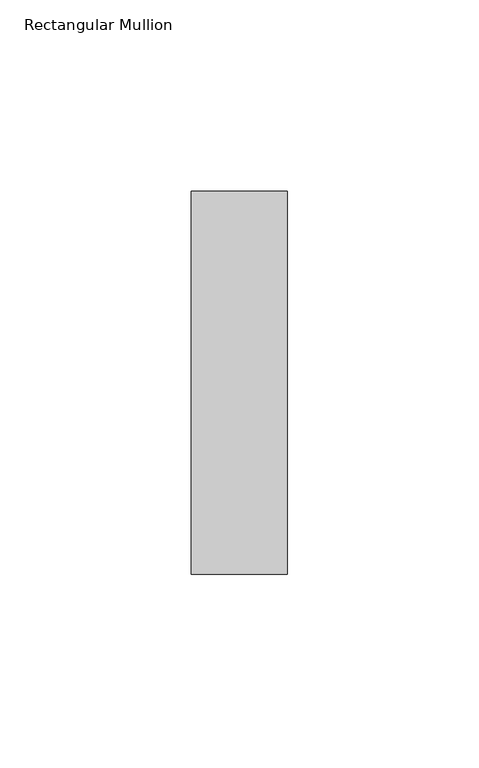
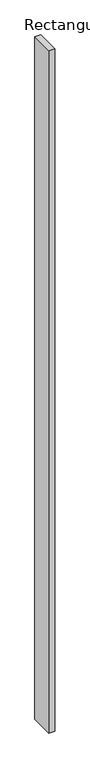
"""IFC4 building model written with IfcOpenShell, lengths in millimetres: member geometry, Rectangular Mullion : Batten_Aluminium_Modinex_AluBatten_25x100_AfricanEbony."""

from ifc_helpers import new_model, si_unit, frame, origin, place, context, project, spatial, polyline, outline, extrude, source, transform, mapped, element, save


def rectangular_mullion_e8802490(model_context):
    return source(origin(), model_context, "Body", "SweptSolid", [
        extrude(outline(polyline([(12.5, 100.0), (12.5, 0.0), (-12.5, 0.0), (-12.5, 100.0), (12.5, 100.0)])), frame((0.0, 0.0, -3000.0), z_axis=(0.0, 0.0, 1.0), x_axis=(1.0, 0.0, 0.0)), (0.0, 0.0, 1.0), 3000.0),
    ])


if __name__ == "__main__":
    model = new_model("IFC4")
    model_context = context("Model", 3, world=origin())
    ifc_project = project(units=[si_unit("LENGTHUNIT", "METRE", prefix="MILLI")], contexts=[model_context])
    site = spatial("IfcSite", under=ifc_project)
    building = spatial("IfcBuilding", under=site)
    placement = place(None, origin())
    rectangular_mullion_shape = rectangular_mullion_e8802490(model_context)
    element("IfcMember", 1, ObjectType="Rectangular Mullion : Batten_Aluminium_Modinex_AluBatten_25x100_AfricanEbony", at=placement, inside=building, context=model_context, shape_type="MappedRepresentation", body=[
        mapped(rectangular_mullion_shape, transform((0.0, 0.0, 0.0), x_axis=(1.0, 0.0, 0.0), y_axis=(0.0, 1.0, 0.0), z_axis=(0.0, 0.0, 1.0))),
    ])
    save(model, "model.ifc")
